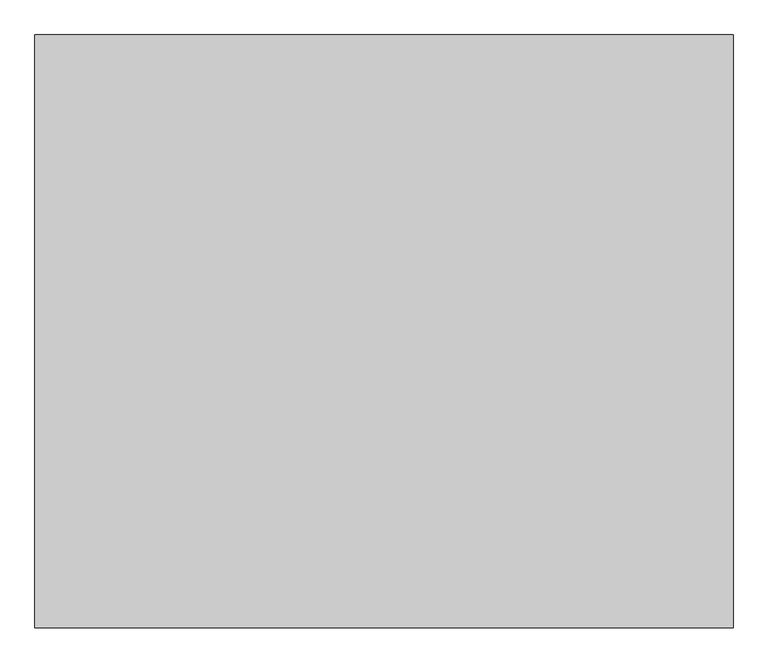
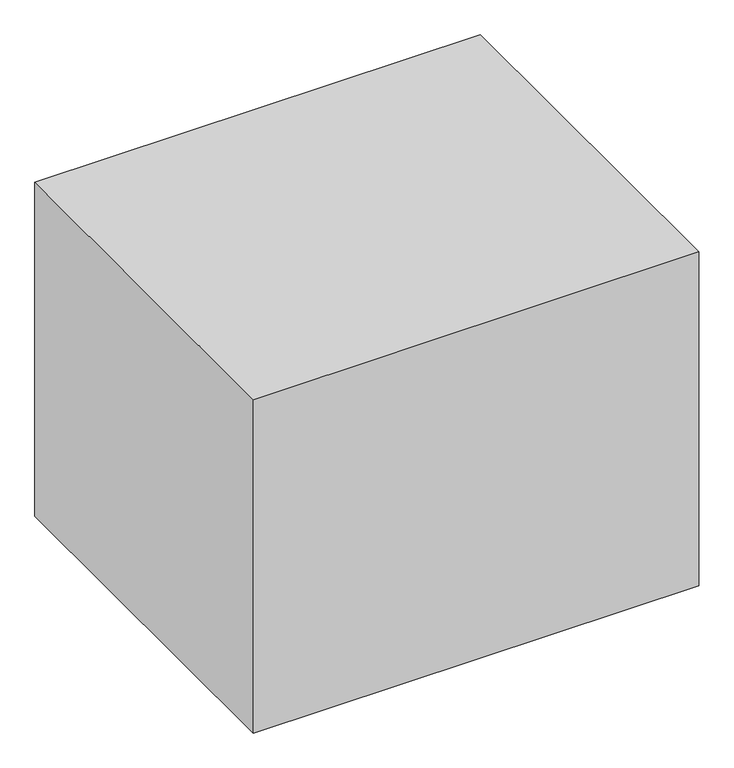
"""IFC4 building model written with IfcOpenShell, lengths in millimetres: proxy geometry."""

from ifc_helpers import new_model, si_unit, origin, origin_with_axes, place, context, project, spatial, polyline, outline, extrude, source, transform, mapped, element, save


def generic_models_5ce6898d(model_context):
    return source(origin(), model_context, "Body", "SweptSolid", [
        extrude(outline(polyline([(-96969.9999698, -19300.7903364), (-96969.9999698, -21983.5320515), (-100128.3327251, -21983.5320515), (-100128.3327251, -19300.7903364), (-96969.9999698, -19300.7903364)])), origin_with_axes(), (0.0, 0.0, 1.0), 2500.0),
    ])


if __name__ == "__main__":
    model = new_model("IFC4")
    model_context = context("Model", 3, world=origin())
    ifc_project = project(units=[si_unit("LENGTHUNIT", "METRE", prefix="MILLI")], contexts=[model_context])
    site = spatial("IfcSite", under=ifc_project)
    building = spatial("IfcBuilding", under=site)
    placement = place(None, origin())
    generic_models_shape = generic_models_5ce6898d(model_context)
    element("IfcBuildingElementProxy", 1, Name="Generic Models", at=placement, inside=building, context=model_context, shape_type="MappedRepresentation", body=[
        mapped(generic_models_shape, transform((0.0, 0.0, 0.0), x_axis=(1.0, 0.0, 0.0), y_axis=(0.0, 1.0, 0.0), z_axis=(0.0, 0.0, 1.0))),
    ])
    save(model, "model.ifc")
